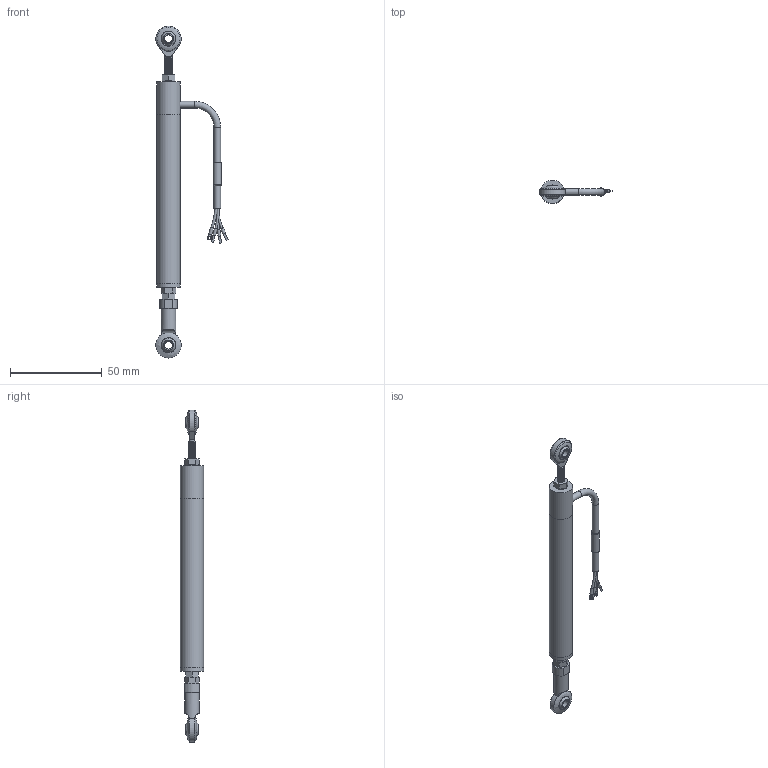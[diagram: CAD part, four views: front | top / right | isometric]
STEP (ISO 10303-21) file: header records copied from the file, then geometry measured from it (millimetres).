
FILE_DESCRIPTION(/* description */ (''),/* implementation_level */ '2;1');
FILE_NAME(/* name */ 'LPPS-12-050-R Assembly (wrapped).step',/* time_stamp */ '2023-10-10T14:07:51-04:00',/* author */ ('TSC_Grant'),/* organization */ (''),/* preprocessor_version */ 'ST-DEVELOPER v19.2',/* originating_system */ 'Autodesk Inventor 2024',/* authorisation */ '');
FILE_SCHEMA (('AUTOMOTIVE_DESIGN { 1 0 10303 214 3 1 1 }'));
Length unit declared in the file: inch
Products named in the file (4): LPPS-12-010-R Assembly (wrapped); LPPS-12-010-R Body (wrapped); LPPS-12-010-R Spoiler (wrapped); Wire
Assembly tree (3 placements, depth 2):
  LPPS-12-010-R Assembly (wrapped)
    LPPS-12-010-R Body (wrapped)
    LPPS-12-010-R Spoiler (wrapped)
    Wire
Bounding box: 39.48 x 12.7 x 180.7 mm (x, y, z)
Volume: 17123.6 mm3; surface area: 10670.4 mm2
Topology: 13 solids, 13 shells, 200 faces, 462 edges, 306 vertices
Faces by surface type: plane 94, cylinder 74, bspline 21, torus 7, sphere 4
Full cylindrical faces by diameter (mm): 1.016 x3, 1.27 x1, 1.524 x3, 1.651 x2, 3.632 x5, 3.937 x14, 4.14 x2, 4.191 x1, 4.445 x1, 6.604 x1, 8.001 x1, 12.7 x3
Entity records: 9554 total; most frequent: CARTESIAN_POINT 4685, ORIENTED_EDGE 924, DIRECTION 895, EDGE_CURVE 462, AXIS2_PLACEMENT_3D 345, VERTEX_POINT 306, EDGE_LOOP 228, LINE 205
